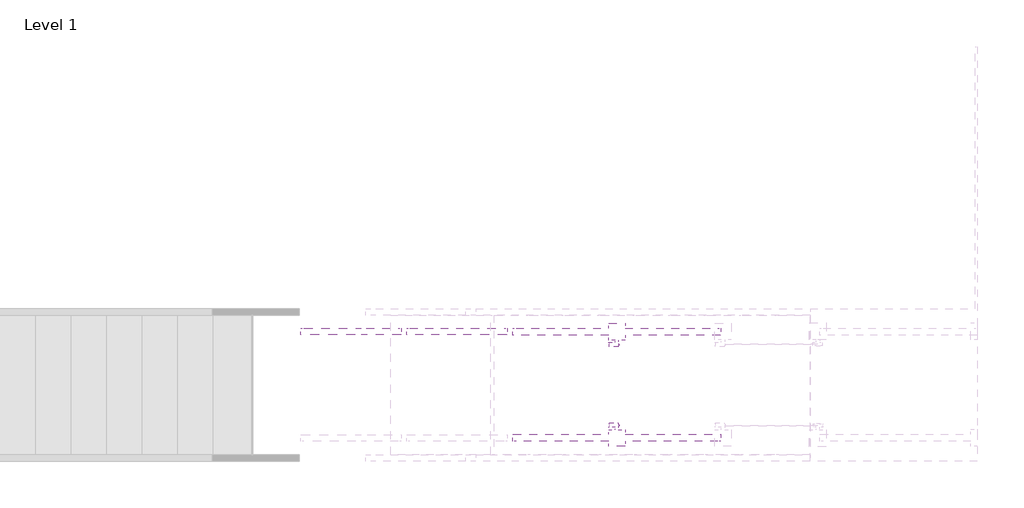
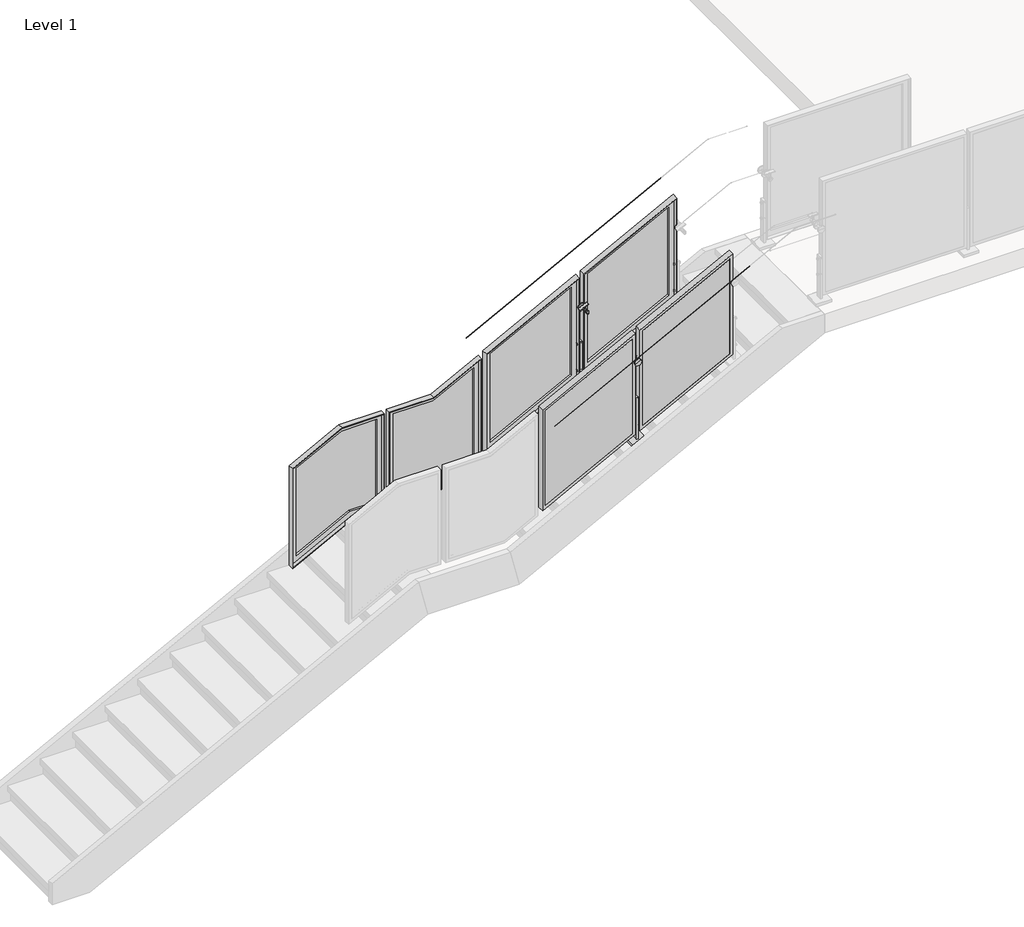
# One storey, part 14 of 37: 4 railings.
"""IFC4 building model written with IfcOpenShell, lengths in millimetres."""

from ifc_helpers import new_model, si_unit, point, frame, frame_2d, origin, place, context, project, spatial, polyline, circle_curve, ellipse_curve, trimmed, segment, composite_curve, outline, extrude, faceted_brep, transform, mapped, element, save
from ifc_brep_helpers import plane_surface, cylinder_surface, advanced_brep
from components import baluster_landing_panel_viva_frame_lower_standard_pp01_71fd184b, baluster_landing_panel_viva_frame_upper_standard_pp01_eb854fba

model = new_model("IFC4")

# Units and contexts
model_context = context("Model", 3, world=origin())
ifc_project = project(units=[si_unit("LENGTHUNIT", "METRE", prefix="MILLI")], contexts=[model_context])

# Site, building, storey
site = spatial("IfcSite", under=ifc_project)
building = spatial("IfcBuilding", under=site)
storey = spatial("IfcBuildingStorey", under=building, Name="Level 1", Elevation=0.0)

# Railings
placement = place(None, origin())
element("IfcRailing", 1, ObjectType="Metal-Panel-VIVA-FRAME-Slab-Top-Anchor-Stairs-Upper", at=placement, inside=storey, context=model_context, shape_type="SolidModel", body=[
    advanced_brep(
    [(-9833.8159088, -18664.9554387, 2893.6354769), (-9833.8159088, -18663.9554387, 2893.6354769), (-8157.4159088, -18664.9554387, 3764.4926197), (-8157.4159088, -18663.9554387, 3764.4926197)],
    [
        (0, 1, ellipse_curve(frame((-9833.8159088, -18664.4554387, 2893.6354769), z_axis=(-1.0, 0.0, 0.0), x_axis=(0.0, 0.0, -1.0)), 0.5634403, 0.5)),
        (1, 0, ellipse_curve(frame((-9833.8159088, -18664.4554387, 2893.6354769), z_axis=(-1.0, 0.0, 0.0), x_axis=(0.0, 0.0, -1.0)), 0.5634403, 0.5)),
        (2, 3, ellipse_curve(frame((-8157.4159088, -18664.4554387, 3764.4926197), z_axis=(1.0, 0.0, 0.0), x_axis=(0.0, 0.0, -1.0)), 0.5634403, 0.5)),
        (3, 2, ellipse_curve(frame((-8157.4159088, -18664.4554387, 3764.4926197), z_axis=(1.0, 0.0, 0.0), x_axis=(0.0, 0.0, -1.0)), 0.5634403, 0.5)),
        (0, 2),
        (3, 1),
    ],
    [
        plane_surface(frame((-9833.8159088, -18664.4554387, 2894.1989172), z_axis=(-1.0, 0.0, 0.0), x_axis=(0.0, 1.0, 0.0))),
        plane_surface(frame((-8157.4159088, -18664.4554387, 3765.0560601), z_axis=(1.0, 0.0, 0.0), x_axis=(0.0, 1.0, 0.0))),
        cylinder_surface(frame((-9833.5854139, -18664.4554387, 2893.7552145), z_axis=(-0.887405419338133, 0.0, -0.4609898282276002), x_axis=(0.0, 1.0, 0.0)), 0.5),
    ],
    [
        (0, [[1, 2]]),
        (1, [[3, 4]]),
        (2, [[-1, 5, -4, 6]]),
        (2, [[-2, -6, -3, -5]]),
    ],
),
    extrude(outline(polyline([(3321.6485005, -8951.1699519), (2460.8755486, -8951.1699519), (2850.1265024, -8201.8618657), (3710.8994544, -8201.8618657), (3321.6485005, -8951.1699519)])), frame((0.0, -18446.5786387, 0.0), z_axis=(0.0, 1.0, 0.0), x_axis=(0.0, 0.0, 1.0)), (0.0, 0.0, 1.0), 3.0),
    faceted_brep([(-8976.5699519, -18446.5786387, 3337.076464), (-8976.5699519, -18446.5786387, 2419.0579747), (-8176.4618657, -18446.5786387, 2834.6985389), (-8176.4618657, -18446.5786387, 3752.7170282), (-8951.1699519, -18446.5786387, 3321.6485005), (-8201.8618657, -18446.5786387, 3710.8994544), (-8201.8618657, -18446.5786387, 2850.1265024), (-8951.1699519, -18446.5786387, 2460.8755486), (-8201.8618657, -18443.5786387, 2850.1265024), (-8951.1699519, -18443.5786387, 2460.8755486), (-8201.8618657, -18443.5786387, 3710.8994544), (-8951.1699519, -18443.5786387, 3321.6485005), (-8970.5755519, -18392.7786387, 2428.9269221), (-8970.5755519, -18423.5888387, 2428.9269221), (-8182.4562657, -18423.5888387, 2838.3395383), (-8182.4562657, -18392.7786387, 2838.3395383), (-8182.4562657, -18423.5888387, 3742.8480808), (-8182.4562657, -18392.7786387, 3742.8480808), (-8970.5755519, -18392.7786387, 3333.4354646), (-8970.5755519, -18423.5888387, 3333.4354646), (-8176.4618657, -18392.7786387, 2834.6985389), (-8976.5699519, -18392.7786387, 2419.0579747), (-8976.5699519, -18392.7786387, 3337.076464), (-8176.4618657, -18392.7786387, 3752.7170282), (-8925.7699519, -18443.5786387, 3306.2205371), (-8227.2618657, -18443.5786387, 3669.0818805), (-8227.2618657, -18443.5786387, 2865.5544658), (-8925.7699519, -18443.5786387, 2502.6931224), (-8227.2618657, -18423.5888387, 2865.5544658), (-8227.2618657, -18423.5888387, 3669.0818805), (-8925.7699519, -18423.5888387, 3306.2205371), (-8925.7699519, -18423.5888387, 2502.6931224)], [[[0, 1, 2, 3], [4, 5, 6, 7]], [[7, 6, 8, 9]], [[6, 5, 10, 8]], [[5, 4, 11, 10]], [[4, 7, 9, 11]], [[12, 13, 14, 15]], [[15, 14, 16, 17]], [[13, 12, 18, 19]], [[20, 21, 22, 23], [12, 15, 17, 18]], [[21, 1, 0, 22]], [[21, 20, 2, 1]], [[2, 20, 23, 3]], [[22, 0, 3, 23]], [[11, 9, 8, 10], [24, 25, 26, 27]], [[14, 13, 19, 16], [28, 29, 30, 31]], [[19, 18, 17, 16]], [[25, 24, 30, 29]], [[26, 25, 29, 28]], [[27, 26, 28, 31]], [[24, 27, 31, 30]]]),
    extrude(outline(composite_curve([segment(polyline([(2.9997401, 0.0), (0.0, 0.0)]), True, "CONTINUOUS"), segment(trimmed(circle_curve(frame_2d((-19.0451471, 0.0)), 19.0451471), [point((0.0, 0.0))], [point((-23.6280664, 18.4855208))], True, "CARTESIAN"), True, "CONTINUOUS"), segment(polyline([(-23.6280664, 18.4855208), (-24.3499072, 21.3971159)]), True, "CONTINUOUS"), segment(trimmed(circle_curve(frame_2d((-19.0451471, 0.0)), 22.0448871), [point((-24.3499072, 21.3971159))], [point((2.9997401, 0.0))], False, "CARTESIAN"), True, "CONTINUOUS")], self_intersect=False)), frame((-9058.1036193, -18334.5772387, 3087.9792855), z_axis=(0.8874054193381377, 0.0, 0.46098982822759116), x_axis=(0.28405456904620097, -0.7876022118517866, -0.5468050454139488)), (0.0, 0.0, 1.0), 79.1184357),
    advanced_brep(
    [(-8983.2187312, -18319.5772387, 3029.6395217), (-8983.2187312, -18326.7209887, 3029.6395217), (-8983.2187312, -18312.4334887, 3029.6395217), (-9019.0779774, -18326.7209887, 3098.6685708), (-9019.0779774, -18319.5772387, 3098.6685708), (-9019.0779774, -18312.4334887, 3098.6685708)],
    [
        (0, 1),
        (1, 2, circle_curve(frame((-8983.2187312, -18319.5772387, 3029.6395217), z_axis=(0.46098982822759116, 0.0, -0.8874054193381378), x_axis=(0.0, 1.0, 0.0)), 7.14375)),
        (2, 0),
        (3, 4),
        (4, 5),
        (5, 3, circle_curve(frame((-9019.0779774, -18319.5772387, 3098.6685708), z_axis=(-0.46098982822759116, 0.0, 0.8874054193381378), x_axis=(0.0, 1.0, 0.0)), 7.14375)),
        (2, 1, circle_curve(frame((-8983.2187312, -18319.5772387, 3029.6395217), z_axis=(0.46098982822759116, 0.0, -0.8874054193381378), x_axis=(0.0, 1.0, 0.0)), 7.14375)),
        (3, 5, circle_curve(frame((-9019.0779774, -18319.5772387, 3098.6685708), z_axis=(-0.46098982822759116, 0.0, 0.8874054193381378), x_axis=(0.0, 1.0, 0.0)), 7.14375)),
        (1, 3),
        (5, 2),
    ],
    [
        plane_surface(frame((-8983.2187312, -18319.5772387, 3029.6395217), z_axis=(0.46098982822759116, 0.0, -0.8874054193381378), x_axis=(0.0, 1.0, 0.0))),
        plane_surface(frame((-9019.0779774, -18319.5772387, 3098.6685708), z_axis=(-0.46098982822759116, 0.0, 0.8874054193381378), x_axis=(0.0, 1.0, 0.0))),
        cylinder_surface(frame((-8866.2645313, -18319.5772387, 2804.502687), z_axis=(0.46098982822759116, 0.0, -0.8874054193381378), x_axis=(0.0, 1.0, 0.0)), 7.14375),
    ],
    [
        (0, [[1, 2, 3]]),
        (1, [[4, 5, 6]]),
        (0, [[-3, 7, -1]]),
        (1, [[-5, -4, 8]]),
        (2, [[9, -6, 10, -2]]),
        (2, [[-10, -8, -9, -7]]),
    ],
),
    advanced_brep(
    [(-9022.3822748, -18446.5772387, 3039.5994829), (-9001.2509332, -18446.5772387, 3050.5768032), (-8989.9808844, -18446.5772387, 3056.431374), (-8968.8495428, -18446.5772387, 3067.4086943), (-9022.3822748, -18454.5147387, 3039.5994829), (-8968.8495428, -18454.5147387, 3067.4086943), (-9022.3822748, -18387.8397387, 3039.5994829), (-9006.8859576, -18387.8397387, 3047.6495178), (-8984.34586, -18387.8397387, 3059.3586595), (-8968.8495428, -18387.8397387, 3067.4086943), (-9022.3822748, -18395.7772387, 3039.5994829), (-8968.8495428, -18395.7772387, 3067.4086943), (-8995.6159088, -18454.5147387, 3053.5040886), (-9006.8859576, -18308.4647387, 3047.6495178), (-8995.6159088, -18308.4647387, 3053.5040886), (-8984.34586, -18308.4647387, 3059.3586595), (-9001.2509332, -18395.7772387, 3050.5768032), (-8989.9808844, -18395.7772387, 3056.431374)],
    [
        (0, 1),
        (1, 2, circle_curve(frame((-8995.6159088, -18446.5772387, 3053.5040886), z_axis=(0.0, -1.0, 0.0), x_axis=(0.887405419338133, 0.0, 0.46098982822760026)), 6.35)),
        (2, 3),
        (3, 0, circle_curve(frame((-8995.6159088, -18446.5772387, 3053.5040886), z_axis=(0.0, 1.0, 0.0), x_axis=(0.887405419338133, 0.0, 0.46098982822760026)), 30.1625)),
        (4, 0),
        (3, 5),
        (5, 4, circle_curve(frame((-8995.6159088, -18454.5147387, 3053.5040886), z_axis=(0.0, 1.0, 0.0), x_axis=(0.887405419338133, 0.0, 0.46098982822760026)), 30.1625)),
        (6, 7),
        (7, 8, circle_curve(frame((-8995.6159088, -18387.8397387, 3053.5040886), z_axis=(0.0, -1.0, 0.0), x_axis=(0.887405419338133, 0.0, 0.46098982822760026)), 12.7)),
        (8, 9),
        (9, 6, circle_curve(frame((-8995.6159088, -18387.8397387, 3053.5040886), z_axis=(0.0, 1.0, 0.0), x_axis=(0.887405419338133, 0.0, 0.46098982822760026)), 30.1625)),
        (10, 6),
        (9, 11),
        (11, 10, circle_curve(frame((-8995.6159088, -18395.7772387, 3053.5040886), z_axis=(0.0, 1.0, 0.0), x_axis=(0.887405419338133, 0.0, 0.46098982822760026)), 30.1625)),
        (3, 0, circle_curve(frame((-8995.6159088, -18446.5772387, 3053.5040886), z_axis=(0.0, -1.0, 0.0), x_axis=(0.887405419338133, 0.0, 0.46098982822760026)), 30.1625)),
        (4, 5, circle_curve(frame((-8995.6159088, -18454.5147387, 3053.5040886), z_axis=(0.0, 1.0, 0.0), x_axis=(0.887405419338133, 0.0, 0.46098982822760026)), 30.1625)),
        (12, 4),
        (5, 12),
        (13, 14),
        (14, 15),
        (15, 13, circle_curve(frame((-8995.6159088, -18308.4647387, 3053.5040886), z_axis=(0.0, 1.0, 0.0), x_axis=(0.887405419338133, 0.0, 0.46098982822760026)), 12.7)),
        (13, 15, circle_curve(frame((-8995.6159088, -18308.4647387, 3053.5040886), z_axis=(0.0, 1.0, 0.0), x_axis=(0.887405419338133, 0.0, 0.46098982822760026)), 12.7)),
        (7, 13),
        (15, 8),
        (7, 8, circle_curve(frame((-8995.6159088, -18387.8397387, 3053.5040886), z_axis=(0.0, 1.0, 0.0), x_axis=(0.887405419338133, 0.0, 0.46098982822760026)), 12.7)),
        (6, 9, circle_curve(frame((-8995.6159088, -18387.8397387, 3053.5040886), z_axis=(0.0, 1.0, 0.0), x_axis=(0.887405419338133, 0.0, 0.46098982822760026)), 30.1625)),
        (10, 11, circle_curve(frame((-8995.6159088, -18395.7772387, 3053.5040886), z_axis=(0.0, 1.0, 0.0), x_axis=(0.887405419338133, 0.0, 0.46098982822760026)), 30.1625)),
        (16, 10),
        (11, 17),
        (17, 16, circle_curve(frame((-8995.6159088, -18395.7772387, 3053.5040886), z_axis=(0.0, 1.0, 0.0), x_axis=(0.887405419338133, 0.0, 0.46098982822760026)), 6.35)),
        (16, 17, circle_curve(frame((-8995.6159088, -18395.7772387, 3053.5040886), z_axis=(0.0, 1.0, 0.0), x_axis=(0.887405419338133, 0.0, 0.46098982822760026)), 6.35)),
        (1, 16),
        (17, 2),
        (1, 2, circle_curve(frame((-8995.6159088, -18446.5772387, 3053.5040886), z_axis=(0.0, 1.0, 0.0), x_axis=(0.887405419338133, 0.0, 0.46098982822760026)), 6.35)),
    ],
    [
        plane_surface(frame((-8995.6159088, -18446.5772387, 3053.5040886), z_axis=(0.0, 1.0, 0.0), x_axis=(0.887405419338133, 0.0, 0.46098982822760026))),
        cylinder_surface(frame((-8995.6159088, -19919.7772387, 3053.5040886), z_axis=(0.0, -1.0, 0.0), x_axis=(0.887405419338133, 0.0, 0.46098982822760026)), 30.1625),
        plane_surface(frame((-8995.6159088, -18387.8397387, 3053.5040886), z_axis=(0.0, 1.0, 0.0), x_axis=(0.887405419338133, 0.0, 0.46098982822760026))),
        plane_surface(frame((-8995.6159088, -18454.5147387, 3053.5040886), z_axis=(0.0, -1.0, 0.0), x_axis=(0.887405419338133, 0.0, 0.46098982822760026))),
        plane_surface(frame((-8995.6159088, -18308.4647387, 3053.5040886), z_axis=(0.0, 1.0, 0.0), x_axis=(0.887405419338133, 0.0, 0.46098982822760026))),
        cylinder_surface(frame((-8995.6159088, -19919.7772387, 3053.5040886), z_axis=(0.0, -1.0, 0.0), x_axis=(0.887405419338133, 0.0, 0.46098982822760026)), 12.7),
        plane_surface(frame((-8995.6159088, -18395.7772387, 3053.5040886), z_axis=(0.0, -1.0, 0.0), x_axis=(0.887405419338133, 0.0, 0.46098982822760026))),
        cylinder_surface(frame((-8995.6159088, -19919.7772387, 3053.5040886), z_axis=(0.0, -1.0, 0.0), x_axis=(0.887405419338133, 0.0, 0.46098982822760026)), 6.35),
    ],
    [
        (0, [[1, 2, 3, 4]]),
        (1, [[5, -4, 6, 7]]),
        (2, [[8, 9, 10, 11]]),
        (1, [[12, -11, 13, 14]]),
        (1, [[-6, 15, -5, 16]]),
        (3, [[17, -7, 18]]),
        (3, [[-18, -16, -17]]),
        (4, [[19, 20, 21]]),
        (4, [[-20, -19, 22]]),
        (5, [[23, -21, 24, -9]]),
        (5, [[-24, -22, -23, 25]]),
        (2, [[-10, -25, -8, 26]]),
        (1, [[-13, -26, -12, 27]]),
        (6, [[28, -14, 29, 30]]),
        (6, [[-29, -27, -28, 31]]),
        (7, [[32, -30, 33, -2]]),
        (7, [[-33, -31, -32, 34]]),
        (0, [[-3, -34, -1, -15]]),
    ],
),
    advanced_brep(
    [(-9021.8033088, -18421.1772387, 2452.4353143), (-9021.8033088, -18421.1772387, 2471.5361143), (-9021.8033088, -18421.1772387, 2461.9857143), (-9017.0281088, -18421.1772387, 2452.4353143), (-9017.0281088, -18421.1772387, 2471.5361143), (-9017.0281088, -18421.1772387, 2457.2105143), (-9017.0281088, -18421.1772387, 2466.7609143), (-8974.2037088, -18421.1772387, 2457.2105143), (-8974.2037088, -18421.1772387, 2466.7609143), (-8974.2037088, -18421.1772387, 2452.4353143), (-8974.2037088, -18421.1772387, 2471.5361143), (-8969.4285088, -18421.1772387, 2452.4353143), (-8969.4285088, -18421.1772387, 2471.5361143), (-8969.4285088, -18421.1772387, 2461.9857143)],
    [
        (0, 1, circle_curve(frame((-9021.8033088, -18421.1772387, 2461.9857143), z_axis=(-1.0, 0.0, 0.0), x_axis=(0.0, 0.0, 1.0)), 9.5504)),
        (1, 2),
        (2, 0),
        (1, 0, circle_curve(frame((-9021.8033088, -18421.1772387, 2461.9857143), z_axis=(-1.0, 0.0, 0.0), x_axis=(0.0, 0.0, 1.0)), 9.5504)),
        (3, 4, circle_curve(frame((-9017.0281088, -18421.1772387, 2461.9857143), z_axis=(-1.0, 0.0, 0.0), x_axis=(0.0, 0.0, 1.0)), 9.5504)),
        (4, 1),
        (0, 3),
        (4, 3, circle_curve(frame((-9017.0281088, -18421.1772387, 2461.9857143), z_axis=(-1.0, 0.0, 0.0), x_axis=(0.0, 0.0, 1.0)), 9.5504)),
        (5, 6, circle_curve(frame((-9017.0281088, -18421.1772387, 2461.9857143), z_axis=(-1.0, 0.0, 0.0), x_axis=(0.0, 0.0, 1.0)), 4.7752)),
        (6, 4),
        (3, 5),
        (6, 5, circle_curve(frame((-9017.0281088, -18421.1772387, 2461.9857143), z_axis=(-1.0, 0.0, 0.0), x_axis=(0.0, 0.0, 1.0)), 4.7752)),
        (7, 8, circle_curve(frame((-8974.2037088, -18421.1772387, 2461.9857143), z_axis=(-1.0, 0.0, 0.0), x_axis=(0.0, 0.0, 1.0)), 4.7752)),
        (8, 6),
        (5, 7),
        (8, 7, circle_curve(frame((-8974.2037088, -18421.1772387, 2461.9857143), z_axis=(-1.0, 0.0, 0.0), x_axis=(0.0, 0.0, 1.0)), 4.7752)),
        (9, 10, circle_curve(frame((-8974.2037088, -18421.1772387, 2461.9857143), z_axis=(-1.0, 0.0, 0.0), x_axis=(0.0, 0.0, 1.0)), 9.5504)),
        (10, 8),
        (7, 9),
        (10, 9, circle_curve(frame((-8974.2037088, -18421.1772387, 2461.9857143), z_axis=(-1.0, 0.0, 0.0), x_axis=(0.0, 0.0, 1.0)), 9.5504)),
        (11, 12, circle_curve(frame((-8969.4285088, -18421.1772387, 2461.9857143), z_axis=(-1.0, 0.0, 0.0), x_axis=(0.0, 0.0, 1.0)), 9.5504)),
        (12, 10),
        (9, 11),
        (12, 11, circle_curve(frame((-8969.4285088, -18421.1772387, 2461.9857143), z_axis=(-1.0, 0.0, 0.0), x_axis=(0.0, 0.0, 1.0)), 9.5504)),
        (13, 12),
        (11, 13),
    ],
    [
        plane_surface(frame((-9021.8033088, -18421.1772387, 2461.9857143), z_axis=(-1.0, 0.0, 0.0), x_axis=(0.0, 0.0, 1.0))),
        cylinder_surface(frame((-12413.3836659, -18421.1772387, 2461.9857143), z_axis=(1.0, 0.0, 0.0), x_axis=(0.0, 0.0, 1.0)), 9.5504),
        plane_surface(frame((-9017.0281088, -18421.1772387, 2461.9857143), z_axis=(1.0, 0.0, 0.0), x_axis=(0.0, 0.0, 1.0))),
        cylinder_surface(frame((-12413.3836659, -18421.1772387, 2461.9857143), z_axis=(1.0, 0.0, 0.0), x_axis=(0.0, 0.0, 1.0)), 4.7752),
        plane_surface(frame((-8974.2037088, -18421.1772387, 2461.9857143), z_axis=(-1.0, 0.0, 0.0), x_axis=(0.0, 0.0, 1.0))),
        plane_surface(frame((-8969.4285088, -18421.1772387, 2461.9857143), z_axis=(1.0, 0.0, 0.0), x_axis=(0.0, 0.0, 1.0))),
    ],
    [
        (0, [[1, 2, 3]]),
        (0, [[4, -3, -2]]),
        (1, [[5, 6, -1, 7]]),
        (1, [[8, -7, -4, -6]]),
        (2, [[9, 10, -5, 11]]),
        (2, [[12, -11, -8, -10]]),
        (3, [[13, 14, -9, 15]]),
        (3, [[16, -15, -12, -14]]),
        (4, [[17, 18, -13, 19]]),
        (4, [[20, -19, -16, -18]]),
        (1, [[21, 22, -17, 23]]),
        (1, [[24, -23, -20, -22]]),
        (5, [[25, -21, 26]]),
        (5, [[-26, -24, -25]]),
    ],
),
    advanced_brep(
    [(-9021.8033088, -18421.1772387, 2693.7353143), (-9021.8033088, -18421.1772387, 2712.8361143), (-9021.8033088, -18421.1772387, 2703.2857143), (-9017.0281088, -18421.1772387, 2693.7353143), (-9017.0281088, -18421.1772387, 2712.8361143), (-9017.0281088, -18421.1772387, 2698.5105143), (-9017.0281088, -18421.1772387, 2708.0609143), (-8974.2037088, -18421.1772387, 2698.5105143), (-8974.2037088, -18421.1772387, 2708.0609143), (-8974.2037088, -18421.1772387, 2693.7353143), (-8974.2037088, -18421.1772387, 2712.8361143), (-8969.4285088, -18421.1772387, 2693.7353143), (-8969.4285088, -18421.1772387, 2712.8361143), (-8969.4285088, -18421.1772387, 2703.2857143)],
    [
        (0, 1, circle_curve(frame((-9021.8033088, -18421.1772387, 2703.2857143), z_axis=(-1.0, 0.0, 0.0), x_axis=(0.0, 0.0, 1.0)), 9.5504)),
        (1, 2),
        (2, 0),
        (1, 0, circle_curve(frame((-9021.8033088, -18421.1772387, 2703.2857143), z_axis=(-1.0, 0.0, 0.0), x_axis=(0.0, 0.0, 1.0)), 9.5504)),
        (3, 4, circle_curve(frame((-9017.0281088, -18421.1772387, 2703.2857143), z_axis=(-1.0, 0.0, 0.0), x_axis=(0.0, 0.0, 1.0)), 9.5504)),
        (4, 1),
        (0, 3),
        (4, 3, circle_curve(frame((-9017.0281088, -18421.1772387, 2703.2857143), z_axis=(-1.0, 0.0, 0.0), x_axis=(0.0, 0.0, 1.0)), 9.5504)),
        (5, 6, circle_curve(frame((-9017.0281088, -18421.1772387, 2703.2857143), z_axis=(-1.0, 0.0, 0.0), x_axis=(0.0, 0.0, 1.0)), 4.7752)),
        (6, 4),
        (3, 5),
        (6, 5, circle_curve(frame((-9017.0281088, -18421.1772387, 2703.2857143), z_axis=(-1.0, 0.0, 0.0), x_axis=(0.0, 0.0, 1.0)), 4.7752)),
        (7, 8, circle_curve(frame((-8974.2037088, -18421.1772387, 2703.2857143), z_axis=(-1.0, 0.0, 0.0), x_axis=(0.0, 0.0, 1.0)), 4.7752)),
        (8, 6),
        (5, 7),
        (8, 7, circle_curve(frame((-8974.2037088, -18421.1772387, 2703.2857143), z_axis=(-1.0, 0.0, 0.0), x_axis=(0.0, 0.0, 1.0)), 4.7752)),
        (9, 10, circle_curve(frame((-8974.2037088, -18421.1772387, 2703.2857143), z_axis=(-1.0, 0.0, 0.0), x_axis=(0.0, 0.0, 1.0)), 9.5504)),
        (10, 8),
        (7, 9),
        (10, 9, circle_curve(frame((-8974.2037088, -18421.1772387, 2703.2857143), z_axis=(-1.0, 0.0, 0.0), x_axis=(0.0, 0.0, 1.0)), 9.5504)),
        (11, 12, circle_curve(frame((-8969.4285088, -18421.1772387, 2703.2857143), z_axis=(-1.0, 0.0, 0.0), x_axis=(0.0, 0.0, 1.0)), 9.5504)),
        (12, 10),
        (9, 11),
        (12, 11, circle_curve(frame((-8969.4285088, -18421.1772387, 2703.2857143), z_axis=(-1.0, 0.0, 0.0), x_axis=(0.0, 0.0, 1.0)), 9.5504)),
        (13, 12),
        (11, 13),
    ],
    [
        plane_surface(frame((-9021.8033088, -18421.1772387, 2703.2857143), z_axis=(-1.0, 0.0, 0.0), x_axis=(0.0, 0.0, 1.0))),
        cylinder_surface(frame((-12413.3836659, -18421.1772387, 2703.2857143), z_axis=(1.0, 0.0, 0.0), x_axis=(0.0, 0.0, 1.0)), 9.5504),
        plane_surface(frame((-9017.0281088, -18421.1772387, 2703.2857143), z_axis=(1.0, 0.0, 0.0), x_axis=(0.0, 0.0, 1.0))),
        cylinder_surface(frame((-12413.3836659, -18421.1772387, 2703.2857143), z_axis=(1.0, 0.0, 0.0), x_axis=(0.0, 0.0, 1.0)), 4.7752),
        plane_surface(frame((-8974.2037088, -18421.1772387, 2703.2857143), z_axis=(-1.0, 0.0, 0.0), x_axis=(0.0, 0.0, 1.0))),
        plane_surface(frame((-8969.4285088, -18421.1772387, 2703.2857143), z_axis=(1.0, 0.0, 0.0), x_axis=(0.0, 0.0, 1.0))),
    ],
    [
        (0, [[1, 2, 3]]),
        (0, [[4, -3, -2]]),
        (1, [[5, 6, -1, 7]]),
        (1, [[8, -7, -4, -6]]),
        (2, [[9, 10, -5, 11]]),
        (2, [[12, -11, -8, -10]]),
        (3, [[13, 14, -9, 15]]),
        (3, [[16, -15, -12, -14]]),
        (4, [[17, 18, -13, 19]]),
        (4, [[20, -19, -16, -18]]),
        (1, [[21, 22, -17, 23]]),
        (1, [[24, -23, -20, -22]]),
        (5, [[25, -21, 26]]),
        (5, [[-26, -24, -25]]),
    ],
),
    extrude(outline(polyline([(-9061.5035088, -18355.2896387), (-8929.7283088, -18355.2896387), (-8929.7283088, -18487.0648387), (-9061.5035088, -18487.0648387), (-9061.5035088, -18355.2896387)])), frame((0.0, 0.0, 2322.2857143), z_axis=(0.0, 0.0, 1.0), x_axis=(1.0, 0.0, 0.0)), (0.0, 0.0, 1.0), 25.4),
    extrude(outline(polyline([(-9003.5555004, -18398.9522387), (-8987.6763171, -18398.9522387), (-8987.6763171, -18443.4022387), (-9003.5555004, -18443.4022387), (-9003.5555004, -18398.9522387)])), frame((0.0, 0.0, 2322.2857143), z_axis=(0.0, 0.0, 1.0), x_axis=(1.0, 0.0, 0.0)), (0.0, 0.0, 1.0), 406.4),
    extrude(outline(polyline([(2886.2199291, -9789.3699519), (2025.4469771, -9789.3699519), (2414.697931, -9040.0618657), (3275.4708829, -9040.0618657), (2886.2199291, -9789.3699519)])), frame((0.0, -18446.5786387, 0.0), z_axis=(0.0, 1.0, 0.0), x_axis=(0.0, 0.0, 1.0)), (0.0, 0.0, 1.0), 3.0),
    faceted_brep([(-9814.7699519, -18446.5786387, 2901.6478925), (-9814.7699519, -18446.5786387, 1983.6294033), (-9014.6618657, -18446.5786387, 2399.2699675), (-9014.6618657, -18446.5786387, 3317.2884568), (-9789.3699519, -18446.5786387, 2886.2199291), (-9040.0618657, -18446.5786387, 3275.4708829), (-9040.0618657, -18446.5786387, 2414.697931), (-9789.3699519, -18446.5786387, 2025.4469771), (-9040.0618657, -18443.5786387, 2414.697931), (-9789.3699519, -18443.5786387, 2025.4469771), (-9040.0618657, -18443.5786387, 3275.4708829), (-9789.3699519, -18443.5786387, 2886.2199291), (-9808.7755519, -18392.7786387, 1993.4983507), (-9808.7755519, -18423.5888387, 1993.4983507), (-9020.6562657, -18423.5888387, 2402.9109669), (-9020.6562657, -18392.7786387, 2402.9109669), (-9020.6562657, -18423.5888387, 3307.4195093), (-9020.6562657, -18392.7786387, 3307.4195093), (-9808.7755519, -18392.7786387, 2898.0068932), (-9808.7755519, -18423.5888387, 2898.0068932), (-9014.6618657, -18392.7786387, 2399.2699675), (-9814.7699519, -18392.7786387, 1983.6294033), (-9814.7699519, -18392.7786387, 2901.6478925), (-9014.6618657, -18392.7786387, 3317.2884568), (-9763.9699519, -18443.5786387, 2870.7919657), (-9065.4618657, -18443.5786387, 3233.6533091), (-9065.4618657, -18443.5786387, 2430.1258944), (-9763.9699519, -18443.5786387, 2067.264551), (-9065.4618657, -18423.5888387, 2430.1258944), (-9065.4618657, -18423.5888387, 3233.6533091), (-9763.9699519, -18423.5888387, 2870.7919657), (-9763.9699519, -18423.5888387, 2067.264551)], [[[0, 1, 2, 3], [4, 5, 6, 7]], [[7, 6, 8, 9]], [[6, 5, 10, 8]], [[5, 4, 11, 10]], [[4, 7, 9, 11]], [[12, 13, 14, 15]], [[15, 14, 16, 17]], [[13, 12, 18, 19]], [[20, 21, 22, 23], [12, 15, 17, 18]], [[21, 1, 0, 22]], [[21, 20, 2, 1]], [[2, 20, 23, 3]], [[22, 0, 3, 23]], [[11, 9, 8, 10], [24, 25, 26, 27]], [[14, 13, 19, 16], [28, 29, 30, 31]], [[19, 18, 17, 16]], [[25, 24, 30, 29]], [[26, 25, 29, 28]], [[27, 26, 28, 31]], [[24, 27, 31, 30]]]),
])
element("IfcRailing", 2, ObjectType="Metal-Panel-VIVA-FRAME-Slab-Top-Anchor-Stairs-Upper", at=placement, inside=storey, context=model_context, shape_type="SolidModel", body=[
    advanced_brep(
    [(-9833.8159088, -17340.7578387, 2893.6354769), (-9833.8159088, -17339.7578387, 2893.6354769), (-8157.4159088, -17340.7578387, 3764.4926197), (-8157.4159088, -17339.7578387, 3764.4926197)],
    [
        (0, 1, ellipse_curve(frame((-9833.8159088, -17340.2578387, 2893.6354769), z_axis=(-1.0, 0.0, 0.0), x_axis=(0.0, 0.0, -0.9999999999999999)), 0.5634403, 0.5)),
        (1, 0, ellipse_curve(frame((-9833.8159088, -17340.2578387, 2893.6354769), z_axis=(-1.0, 0.0, 0.0), x_axis=(0.0, 0.0, -0.9999999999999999)), 0.5634403, 0.5)),
        (2, 3, ellipse_curve(frame((-8157.4159088, -17340.2578387, 3764.4926197), z_axis=(1.0, 0.0, 0.0), x_axis=(0.0, 0.0, -0.9999999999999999)), 0.5634403, 0.5)),
        (3, 2, ellipse_curve(frame((-8157.4159088, -17340.2578387, 3764.4926197), z_axis=(1.0, 0.0, 0.0), x_axis=(0.0, 0.0, -0.9999999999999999)), 0.5634403, 0.5)),
        (0, 2),
        (3, 1),
    ],
    [
        plane_surface(frame((-9833.8159088, -17340.2578387, 2894.1989172), z_axis=(-1.0, 0.0, 0.0), x_axis=(0.0, 1.0, 0.0))),
        plane_surface(frame((-8157.4159088, -17340.2578387, 3765.0560601), z_axis=(1.0, 0.0, 0.0), x_axis=(0.0, 1.0, 0.0))),
        cylinder_surface(frame((-9833.5854139, -17340.2578387, 2893.7552145), z_axis=(-0.8874054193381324, 0.0, -0.4609898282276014), x_axis=(0.0, 1.0, 0.0)), 0.5),
    ],
    [
        (0, [[1, 2]]),
        (1, [[3, 4]]),
        (2, [[-1, 5, -4, 6]]),
        (2, [[-2, -6, -3, -5]]),
    ],
),
    extrude(outline(polyline([(2460.8755486, -8951.1699519), (2850.1265024, -8201.8618657), (3710.8994544, -8201.8618657), (3321.6485005, -8951.1699519), (2460.8755486, -8951.1699519)])), frame((0.0, -17561.1346387, 0.0), z_axis=(0.0, 1.0, 0.0), x_axis=(0.0, 0.0, 1.0)), (0.0, 0.0, 1.0), 3.0),
    faceted_brep([(-8976.5699519, -17558.1346387, 3337.076464), (-8176.4618657, -17558.1346387, 3752.7170282), (-8176.4618657, -17558.1346387, 2834.6985389), (-8976.5699519, -17558.1346387, 2419.0579747), (-8951.1699519, -17558.1346387, 3321.6485005), (-8951.1699519, -17558.1346387, 2460.8755486), (-8201.8618657, -17558.1346387, 2850.1265024), (-8201.8618657, -17558.1346387, 3710.8994544), (-8951.1699519, -17561.1346387, 2460.8755486), (-8201.8618657, -17561.1346387, 2850.1265024), (-8201.8618657, -17561.1346387, 3710.8994544), (-8951.1699519, -17561.1346387, 3321.6485005), (-8970.5755519, -17611.9346387, 2428.9269221), (-8182.4562657, -17611.9346387, 2838.3395383), (-8182.4562657, -17581.1244387, 2838.3395383), (-8970.5755519, -17581.1244387, 2428.9269221), (-8182.4562657, -17611.9346387, 3742.8480808), (-8182.4562657, -17581.1244387, 3742.8480808), (-8970.5755519, -17581.1244387, 3333.4354646), (-8970.5755519, -17611.9346387, 3333.4354646), (-8176.4618657, -17611.9346387, 2834.6985389), (-8176.4618657, -17611.9346387, 3752.7170282), (-8976.5699519, -17611.9346387, 3337.076464), (-8976.5699519, -17611.9346387, 2419.0579747), (-8925.7699519, -17561.1346387, 3306.2205371), (-8925.7699519, -17561.1346387, 2502.6931224), (-8227.2618657, -17561.1346387, 2865.5544658), (-8227.2618657, -17561.1346387, 3669.0818805), (-8227.2618657, -17581.1244387, 2865.5544658), (-8925.7699519, -17581.1244387, 2502.6931224), (-8925.7699519, -17581.1244387, 3306.2205371), (-8227.2618657, -17581.1244387, 3669.0818805)], [[[0, 1, 2, 3], [4, 5, 6, 7]], [[5, 8, 9, 6]], [[6, 9, 10, 7]], [[7, 10, 11, 4]], [[4, 11, 8, 5]], [[12, 13, 14, 15]], [[13, 16, 17, 14]], [[15, 18, 19, 12]], [[20, 21, 22, 23], [12, 19, 16, 13]], [[23, 22, 0, 3]], [[23, 3, 2, 20]], [[2, 1, 21, 20]], [[22, 21, 1, 0]], [[11, 10, 9, 8], [24, 25, 26, 27]], [[14, 17, 18, 15], [28, 29, 30, 31]], [[18, 17, 16, 19]], [[27, 31, 30, 24]], [[26, 28, 31, 27]], [[25, 29, 28, 26]], [[24, 30, 29, 25]]]),
    extrude(outline(composite_curve([segment(trimmed(circle_curve(frame_2d((-19.0451471, 0.0)), 22.0448871), [point((2.99974, -1e-07))], [point((-24.3499073, -21.397116))], False, "CARTESIAN"), True, "CONTINUOUS"), segment(polyline([(-24.3499073, -21.397116), (-23.6280664, -18.4855208)]), True, "CONTINUOUS"), segment(trimmed(circle_curve(frame_2d((-19.0451471, 0.0)), 19.0451471), [point((-23.6280664, -18.4855208))], [point((0.0, 0.0))], True, "CARTESIAN"), True, "CONTINUOUS"), segment(polyline([(0.0, 0.0), (2.99974, -1e-07)]), True, "CONTINUOUS")], self_intersect=False)), frame((-9058.1036193, -17670.1360387, 3087.9792855), z_axis=(0.8874054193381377, 0.0, 0.46098982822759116), x_axis=(0.2840545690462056, 0.7876022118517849, -0.5468050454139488)), (0.0, 0.0, 1.0), 79.1184357),
    advanced_brep(
    [(-8983.2187312, -17685.1360387, 3029.6395217), (-8983.2187312, -17692.2797887, 3029.6395217), (-8983.2187312, -17677.9922887, 3029.6395217), (-9019.0779774, -17677.9922887, 3098.6685708), (-9019.0779774, -17692.2797887, 3098.6685708), (-9019.0779774, -17685.1360387, 3098.6685708)],
    [
        (0, 1),
        (1, 2, circle_curve(frame((-8983.2187312, -17685.1360387, 3029.6395217), z_axis=(0.46098982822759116, 0.0, -0.8874054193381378), x_axis=(0.0, -1.0, 0.0)), 7.14375)),
        (2, 0),
        (3, 4, circle_curve(frame((-9019.0779774, -17685.1360387, 3098.6685708), z_axis=(-0.46098982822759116, 0.0, 0.8874054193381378), x_axis=(0.0, -1.0, 0.0)), 7.14375)),
        (4, 5),
        (5, 3),
        (2, 1, circle_curve(frame((-8983.2187312, -17685.1360387, 3029.6395217), z_axis=(0.46098982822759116, 0.0, -0.8874054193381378), x_axis=(0.0, -1.0, 0.0)), 7.14375)),
        (4, 3, circle_curve(frame((-9019.0779774, -17685.1360387, 3098.6685708), z_axis=(-0.46098982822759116, 0.0, 0.8874054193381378), x_axis=(0.0, -1.0, 0.0)), 7.14375)),
        (1, 4),
        (3, 2),
    ],
    [
        plane_surface(frame((-8983.2187312, -17685.1360387, 3029.6395217), z_axis=(0.46098982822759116, 0.0, -0.8874054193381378), x_axis=(0.0, -1.0, 0.0))),
        plane_surface(frame((-9019.0779774, -17685.1360387, 3098.6685708), z_axis=(-0.46098982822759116, 0.0, 0.8874054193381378), x_axis=(0.0, -1.0, 0.0))),
        cylinder_surface(frame((-8866.2645313, -17685.1360387, 2804.502687), z_axis=(0.46098982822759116, 0.0, -0.8874054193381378), x_axis=(0.0, -1.0, 0.0)), 7.14375),
    ],
    [
        (0, [[1, 2, 3]]),
        (1, [[4, 5, 6]]),
        (0, [[-3, 7, -1]]),
        (1, [[8, -6, -5]]),
        (2, [[-2, 9, -4, 10]]),
        (2, [[-7, -10, -8, -9]]),
    ],
),
    advanced_brep(
    [(-9022.3822748, -17558.1360387, 3039.5994829), (-8968.8495428, -17558.1360387, 3067.4086943), (-8989.9808844, -17558.1360387, 3056.431374), (-9001.2509332, -17558.1360387, 3050.5768032), (-9022.3822748, -17550.1985387, 3039.5994829), (-8968.8495428, -17550.1985387, 3067.4086943), (-9022.3822748, -17616.8735387, 3039.5994829), (-8968.8495428, -17616.8735387, 3067.4086943), (-8984.34586, -17616.8735387, 3059.3586595), (-9006.8859576, -17616.8735387, 3047.6495178), (-9022.3822748, -17608.9360387, 3039.5994829), (-8968.8495428, -17608.9360387, 3067.4086943), (-8995.6159088, -17550.1985387, 3053.5040886), (-9006.8859576, -17696.2485387, 3047.6495178), (-8984.34586, -17696.2485387, 3059.3586595), (-8995.6159088, -17696.2485387, 3053.5040886), (-9001.2509332, -17608.9360387, 3050.5768032), (-8989.9808844, -17608.9360387, 3056.431374)],
    [
        (0, 1, circle_curve(frame((-8995.6159088, -17558.1360387, 3053.5040886), z_axis=(0.0, -1.0, 0.0), x_axis=(0.887405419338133, 0.0, 0.46098982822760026)), 30.1625)),
        (1, 2),
        (2, 3, circle_curve(frame((-8995.6159088, -17558.1360387, 3053.5040886), z_axis=(0.0, 1.0, 0.0), x_axis=(0.887405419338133, 0.0, 0.46098982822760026)), 6.35)),
        (3, 0),
        (4, 5, circle_curve(frame((-8995.6159088, -17550.1985387, 3053.5040886), z_axis=(0.0, -1.0, 0.0), x_axis=(0.887405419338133, 0.0, 0.46098982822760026)), 30.1625)),
        (5, 1),
        (0, 4),
        (6, 7, circle_curve(frame((-8995.6159088, -17616.8735387, 3053.5040886), z_axis=(0.0, -1.0, 0.0), x_axis=(0.887405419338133, 0.0, 0.46098982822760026)), 30.1625)),
        (7, 8),
        (8, 9, circle_curve(frame((-8995.6159088, -17616.8735387, 3053.5040886), z_axis=(0.0, 1.0, 0.0), x_axis=(0.887405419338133, 0.0, 0.46098982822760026)), 12.7)),
        (9, 6),
        (10, 11, circle_curve(frame((-8995.6159088, -17608.9360387, 3053.5040886), z_axis=(0.0, -1.0, 0.0), x_axis=(0.887405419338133, 0.0, 0.46098982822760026)), 30.1625)),
        (11, 7),
        (6, 10),
        (5, 4, circle_curve(frame((-8995.6159088, -17550.1985387, 3053.5040886), z_axis=(0.0, -1.0, 0.0), x_axis=(0.887405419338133, 0.0, 0.46098982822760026)), 30.1625)),
        (0, 1, circle_curve(frame((-8995.6159088, -17558.1360387, 3053.5040886), z_axis=(0.0, 1.0, 0.0), x_axis=(0.887405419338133, 0.0, 0.46098982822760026)), 30.1625)),
        (12, 5),
        (4, 12),
        (13, 14, circle_curve(frame((-8995.6159088, -17696.2485387, 3053.5040886), z_axis=(0.0, -1.0, 0.0), x_axis=(0.887405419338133, 0.0, 0.46098982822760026)), 12.7)),
        (14, 15),
        (15, 13),
        (14, 13, circle_curve(frame((-8995.6159088, -17696.2485387, 3053.5040886), z_axis=(0.0, -1.0, 0.0), x_axis=(0.887405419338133, 0.0, 0.46098982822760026)), 12.7)),
        (8, 14),
        (13, 9),
        (8, 9, circle_curve(frame((-8995.6159088, -17616.8735387, 3053.5040886), z_axis=(0.0, -1.0, 0.0), x_axis=(0.887405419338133, 0.0, 0.46098982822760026)), 12.7)),
        (7, 6, circle_curve(frame((-8995.6159088, -17616.8735387, 3053.5040886), z_axis=(0.0, -1.0, 0.0), x_axis=(0.887405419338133, 0.0, 0.46098982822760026)), 30.1625)),
        (11, 10, circle_curve(frame((-8995.6159088, -17608.9360387, 3053.5040886), z_axis=(0.0, -1.0, 0.0), x_axis=(0.887405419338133, 0.0, 0.46098982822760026)), 30.1625)),
        (16, 17, circle_curve(frame((-8995.6159088, -17608.9360387, 3053.5040886), z_axis=(0.0, -1.0, 0.0), x_axis=(0.887405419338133, 0.0, 0.46098982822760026)), 6.35)),
        (17, 11),
        (10, 16),
        (17, 16, circle_curve(frame((-8995.6159088, -17608.9360387, 3053.5040886), z_axis=(0.0, -1.0, 0.0), x_axis=(0.887405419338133, 0.0, 0.46098982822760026)), 6.35)),
        (2, 17),
        (16, 3),
        (2, 3, circle_curve(frame((-8995.6159088, -17558.1360387, 3053.5040886), z_axis=(0.0, -1.0, 0.0), x_axis=(0.887405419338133, 0.0, 0.46098982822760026)), 6.35)),
    ],
    [
        plane_surface(frame((-8995.6159088, -17558.1360387, 3053.5040886), z_axis=(0.0, -1.0, 0.0), x_axis=(0.887405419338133, 0.0, 0.46098982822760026))),
        cylinder_surface(frame((-8995.6159088, -16084.9360387, 3053.5040886), z_axis=(0.0, 1.0, 0.0), x_axis=(0.887405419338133, 0.0, 0.46098982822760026)), 30.1625),
        plane_surface(frame((-8995.6159088, -17616.8735387, 3053.5040886), z_axis=(0.0, -1.0, 0.0), x_axis=(0.887405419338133, 0.0, 0.46098982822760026))),
        plane_surface(frame((-8995.6159088, -17550.1985387, 3053.5040886), z_axis=(0.0, 1.0, 0.0), x_axis=(0.887405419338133, 0.0, 0.46098982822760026))),
        plane_surface(frame((-8995.6159088, -17696.2485387, 3053.5040886), z_axis=(0.0, -1.0, 0.0), x_axis=(0.887405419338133, 0.0, 0.46098982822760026))),
        cylinder_surface(frame((-8995.6159088, -16084.9360387, 3053.5040886), z_axis=(0.0, 1.0, 0.0), x_axis=(0.887405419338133, 0.0, 0.46098982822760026)), 12.7),
        plane_surface(frame((-8995.6159088, -17608.9360387, 3053.5040886), z_axis=(0.0, 1.0, 0.0), x_axis=(0.887405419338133, 0.0, 0.46098982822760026))),
        cylinder_surface(frame((-8995.6159088, -16084.9360387, 3053.5040886), z_axis=(0.0, 1.0, 0.0), x_axis=(0.887405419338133, 0.0, 0.46098982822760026)), 6.35),
    ],
    [
        (0, [[1, 2, 3, 4]]),
        (1, [[5, 6, -1, 7]]),
        (2, [[8, 9, 10, 11]]),
        (1, [[12, 13, -8, 14]]),
        (1, [[15, -7, 16, -6]]),
        (3, [[17, -5, 18]]),
        (3, [[-18, -15, -17]]),
        (4, [[19, 20, 21]]),
        (4, [[22, -21, -20]]),
        (5, [[-10, 23, -19, 24]]),
        (5, [[25, -24, -22, -23]]),
        (2, [[26, -11, -25, -9]]),
        (1, [[27, -14, -26, -13]]),
        (6, [[28, 29, -12, 30]]),
        (6, [[31, -30, -27, -29]]),
        (7, [[-3, 32, -28, 33]]),
        (7, [[34, -33, -31, -32]]),
        (0, [[-16, -4, -34, -2]]),
    ],
),
    advanced_brep(
    [(-9021.8033088, -17583.5360387, 2452.4353143), (-9021.8033088, -17583.5360387, 2461.9857143), (-9021.8033088, -17583.5360387, 2471.5361143), (-9017.0281088, -17583.5360387, 2452.4353143), (-9017.0281088, -17583.5360387, 2471.5361143), (-9017.0281088, -17583.5360387, 2457.2105143), (-9017.0281088, -17583.5360387, 2466.7609143), (-8974.2037088, -17583.5360387, 2457.2105143), (-8974.2037088, -17583.5360387, 2466.7609143), (-8974.2037088, -17583.5360387, 2452.4353143), (-8974.2037088, -17583.5360387, 2471.5361143), (-8969.4285088, -17583.5360387, 2452.4353143), (-8969.4285088, -17583.5360387, 2471.5361143), (-8969.4285088, -17583.5360387, 2461.9857143)],
    [
        (0, 1),
        (1, 2),
        (2, 0, circle_curve(frame((-9021.8033088, -17583.5360387, 2461.9857143), z_axis=(-1.0, 0.0, 0.0), x_axis=(0.0, 0.0, 1.0)), 9.5504)),
        (0, 2, circle_curve(frame((-9021.8033088, -17583.5360387, 2461.9857143), z_axis=(-1.0, 0.0, 0.0), x_axis=(0.0, 0.0, 1.0)), 9.5504)),
        (3, 0),
        (2, 4),
        (4, 3, circle_curve(frame((-9017.0281088, -17583.5360387, 2461.9857143), z_axis=(-1.0, 0.0, 0.0), x_axis=(0.0, 0.0, 1.0)), 9.5504)),
        (3, 4, circle_curve(frame((-9017.0281088, -17583.5360387, 2461.9857143), z_axis=(-1.0, 0.0, 0.0), x_axis=(0.0, 0.0, 1.0)), 9.5504)),
        (5, 3),
        (4, 6),
        (6, 5, circle_curve(frame((-9017.0281088, -17583.5360387, 2461.9857143), z_axis=(-1.0, 0.0, 0.0), x_axis=(0.0, 0.0, 1.0)), 4.7752)),
        (5, 6, circle_curve(frame((-9017.0281088, -17583.5360387, 2461.9857143), z_axis=(-1.0, 0.0, 0.0), x_axis=(0.0, 0.0, 1.0)), 4.7752)),
        (7, 5),
        (6, 8),
        (8, 7, circle_curve(frame((-8974.2037088, -17583.5360387, 2461.9857143), z_axis=(-1.0, 0.0, 0.0), x_axis=(0.0, 0.0, 1.0)), 4.7752)),
        (7, 8, circle_curve(frame((-8974.2037088, -17583.5360387, 2461.9857143), z_axis=(-1.0, 0.0, 0.0), x_axis=(0.0, 0.0, 1.0)), 4.7752)),
        (9, 7),
        (8, 10),
        (10, 9, circle_curve(frame((-8974.2037088, -17583.5360387, 2461.9857143), z_axis=(-1.0, 0.0, 0.0), x_axis=(0.0, 0.0, 1.0)), 9.5504)),
        (9, 10, circle_curve(frame((-8974.2037088, -17583.5360387, 2461.9857143), z_axis=(-1.0, 0.0, 0.0), x_axis=(0.0, 0.0, 1.0)), 9.5504)),
        (11, 9),
        (10, 12),
        (12, 11, circle_curve(frame((-8969.4285088, -17583.5360387, 2461.9857143), z_axis=(-1.0, 0.0, 0.0), x_axis=(0.0, 0.0, 1.0)), 9.5504)),
        (11, 12, circle_curve(frame((-8969.4285088, -17583.5360387, 2461.9857143), z_axis=(-1.0, 0.0, 0.0), x_axis=(0.0, 0.0, 1.0)), 9.5504)),
        (13, 11),
        (12, 13),
    ],
    [
        plane_surface(frame((-9021.8033088, -17583.5360387, 2461.9857143), z_axis=(-1.0, 0.0, 0.0), x_axis=(0.0, 0.0, 1.0))),
        cylinder_surface(frame((-12413.3836659, -17583.5360387, 2461.9857143), z_axis=(1.0, 0.0, 0.0), x_axis=(0.0, 0.0, 1.0)), 9.5504),
        plane_surface(frame((-9017.0281088, -17583.5360387, 2461.9857143), z_axis=(1.0, 0.0, 0.0), x_axis=(0.0, 0.0, 1.0))),
        cylinder_surface(frame((-12413.3836659, -17583.5360387, 2461.9857143), z_axis=(1.0, 0.0, 0.0), x_axis=(0.0, 0.0, 1.0)), 4.7752),
        plane_surface(frame((-8974.2037088, -17583.5360387, 2461.9857143), z_axis=(-1.0, 0.0, 0.0), x_axis=(0.0, 0.0, 1.0))),
        plane_surface(frame((-8969.4285088, -17583.5360387, 2461.9857143), z_axis=(1.0, 0.0, 0.0), x_axis=(0.0, 0.0, 1.0))),
    ],
    [
        (0, [[1, 2, 3]]),
        (0, [[-2, -1, 4]]),
        (1, [[5, -3, 6, 7]]),
        (1, [[-6, -4, -5, 8]]),
        (2, [[9, -7, 10, 11]]),
        (2, [[-10, -8, -9, 12]]),
        (3, [[13, -11, 14, 15]]),
        (3, [[-14, -12, -13, 16]]),
        (4, [[17, -15, 18, 19]]),
        (4, [[-18, -16, -17, 20]]),
        (1, [[21, -19, 22, 23]]),
        (1, [[-22, -20, -21, 24]]),
        (5, [[25, -23, 26]]),
        (5, [[-26, -24, -25]]),
    ],
),
    advanced_brep(
    [(-9021.8033088, -17583.5360387, 2693.7353143), (-9021.8033088, -17583.5360387, 2703.2857143), (-9021.8033088, -17583.5360387, 2712.8361143), (-9017.0281088, -17583.5360387, 2693.7353143), (-9017.0281088, -17583.5360387, 2712.8361143), (-9017.0281088, -17583.5360387, 2698.5105143), (-9017.0281088, -17583.5360387, 2708.0609143), (-8974.2037088, -17583.5360387, 2698.5105143), (-8974.2037088, -17583.5360387, 2708.0609143), (-8974.2037088, -17583.5360387, 2693.7353143), (-8974.2037088, -17583.5360387, 2712.8361143), (-8969.4285088, -17583.5360387, 2693.7353143), (-8969.4285088, -17583.5360387, 2712.8361143), (-8969.4285088, -17583.5360387, 2703.2857143)],
    [
        (0, 1),
        (1, 2),
        (2, 0, circle_curve(frame((-9021.8033088, -17583.5360387, 2703.2857143), z_axis=(-1.0, 0.0, 0.0), x_axis=(0.0, 0.0, 1.0)), 9.5504)),
        (0, 2, circle_curve(frame((-9021.8033088, -17583.5360387, 2703.2857143), z_axis=(-1.0, 0.0, 0.0), x_axis=(0.0, 0.0, 1.0)), 9.5504)),
        (3, 0),
        (2, 4),
        (4, 3, circle_curve(frame((-9017.0281088, -17583.5360387, 2703.2857143), z_axis=(-1.0, 0.0, 0.0), x_axis=(0.0, 0.0, 1.0)), 9.5504)),
        (3, 4, circle_curve(frame((-9017.0281088, -17583.5360387, 2703.2857143), z_axis=(-1.0, 0.0, 0.0), x_axis=(0.0, 0.0, 1.0)), 9.5504)),
        (5, 3),
        (4, 6),
        (6, 5, circle_curve(frame((-9017.0281088, -17583.5360387, 2703.2857143), z_axis=(-1.0, 0.0, 0.0), x_axis=(0.0, 0.0, 1.0)), 4.7752)),
        (5, 6, circle_curve(frame((-9017.0281088, -17583.5360387, 2703.2857143), z_axis=(-1.0, 0.0, 0.0), x_axis=(0.0, 0.0, 1.0)), 4.7752)),
        (7, 5),
        (6, 8),
        (8, 7, circle_curve(frame((-8974.2037088, -17583.5360387, 2703.2857143), z_axis=(-1.0, 0.0, 0.0), x_axis=(0.0, 0.0, 1.0)), 4.7752)),
        (7, 8, circle_curve(frame((-8974.2037088, -17583.5360387, 2703.2857143), z_axis=(-1.0, 0.0, 0.0), x_axis=(0.0, 0.0, 1.0)), 4.7752)),
        (9, 7),
        (8, 10),
        (10, 9, circle_curve(frame((-8974.2037088, -17583.5360387, 2703.2857143), z_axis=(-1.0, 0.0, 0.0), x_axis=(0.0, 0.0, 1.0)), 9.5504)),
        (9, 10, circle_curve(frame((-8974.2037088, -17583.5360387, 2703.2857143), z_axis=(-1.0, 0.0, 0.0), x_axis=(0.0, 0.0, 1.0)), 9.5504)),
        (11, 9),
        (10, 12),
        (12, 11, circle_curve(frame((-8969.4285088, -17583.5360387, 2703.2857143), z_axis=(-1.0, 0.0, 0.0), x_axis=(0.0, 0.0, 1.0)), 9.5504)),
        (11, 12, circle_curve(frame((-8969.4285088, -17583.5360387, 2703.2857143), z_axis=(-1.0, 0.0, 0.0), x_axis=(0.0, 0.0, 1.0)), 9.5504)),
        (13, 11),
        (12, 13),
    ],
    [
        plane_surface(frame((-9021.8033088, -17583.5360387, 2703.2857143), z_axis=(-1.0, 0.0, 0.0), x_axis=(0.0, 0.0, 1.0))),
        cylinder_surface(frame((-12413.3836659, -17583.5360387, 2703.2857143), z_axis=(1.0, 0.0, 0.0), x_axis=(0.0, 0.0, 1.0)), 9.5504),
        plane_surface(frame((-9017.0281088, -17583.5360387, 2703.2857143), z_axis=(1.0, 0.0, 0.0), x_axis=(0.0, 0.0, 1.0))),
        cylinder_surface(frame((-12413.3836659, -17583.5360387, 2703.2857143), z_axis=(1.0, 0.0, 0.0), x_axis=(0.0, 0.0, 1.0)), 4.7752),
        plane_surface(frame((-8974.2037088, -17583.5360387, 2703.2857143), z_axis=(-1.0, 0.0, 0.0), x_axis=(0.0, 0.0, 1.0))),
        plane_surface(frame((-8969.4285088, -17583.5360387, 2703.2857143), z_axis=(1.0, 0.0, 0.0), x_axis=(0.0, 0.0, 1.0))),
    ],
    [
        (0, [[1, 2, 3]]),
        (0, [[-2, -1, 4]]),
        (1, [[5, -3, 6, 7]]),
        (1, [[-6, -4, -5, 8]]),
        (2, [[9, -7, 10, 11]]),
        (2, [[-10, -8, -9, 12]]),
        (3, [[13, -11, 14, 15]]),
        (3, [[-14, -12, -13, 16]]),
        (4, [[17, -15, 18, 19]]),
        (4, [[-18, -16, -17, 20]]),
        (1, [[21, -19, 22, 23]]),
        (1, [[-22, -20, -21, 24]]),
        (5, [[25, -23, 26]]),
        (5, [[-26, -24, -25]]),
    ],
),
    extrude(outline(polyline([(-9061.5035088, -17649.4236387), (-9061.5035088, -17517.6484387), (-8929.7283088, -17517.6484387), (-8929.7283088, -17649.4236387), (-9061.5035088, -17649.4236387)])), frame((0.0, 0.0, 2322.2857143), z_axis=(0.0, 0.0, 1.0), x_axis=(1.0, 0.0, 0.0)), (0.0, 0.0, 1.0), 25.4),
    extrude(outline(polyline([(-9003.5555004, -17605.7610387), (-9003.5555004, -17561.3110387), (-8987.6763171, -17561.3110387), (-8987.6763171, -17605.7610387), (-9003.5555004, -17605.7610387)])), frame((0.0, 0.0, 2322.2857143), z_axis=(0.0, 0.0, 1.0), x_axis=(1.0, 0.0, 0.0)), (0.0, 0.0, 1.0), 406.4),
    extrude(outline(polyline([(2025.4469771, -9789.3699519), (2414.697931, -9040.0618657), (3275.4708829, -9040.0618657), (2886.2199291, -9789.3699519), (2025.4469771, -9789.3699519)])), frame((0.0, -17561.1346387, 0.0), z_axis=(0.0, 1.0, 0.0), x_axis=(0.0, 0.0, 1.0)), (0.0, 0.0, 1.0), 3.0),
    faceted_brep([(-9814.7699519, -17558.1346387, 2901.6478925), (-9014.6618657, -17558.1346387, 3317.2884568), (-9014.6618657, -17558.1346387, 2399.2699675), (-9814.7699519, -17558.1346387, 1983.6294033), (-9789.3699519, -17558.1346387, 2886.2199291), (-9789.3699519, -17558.1346387, 2025.4469771), (-9040.0618657, -17558.1346387, 2414.697931), (-9040.0618657, -17558.1346387, 3275.4708829), (-9789.3699519, -17561.1346387, 2025.4469771), (-9040.0618657, -17561.1346387, 2414.697931), (-9040.0618657, -17561.1346387, 3275.4708829), (-9789.3699519, -17561.1346387, 2886.2199291), (-9808.7755519, -17611.9346387, 1993.4983507), (-9020.6562657, -17611.9346387, 2402.9109669), (-9020.6562657, -17581.1244387, 2402.9109669), (-9808.7755519, -17581.1244387, 1993.4983507), (-9020.6562657, -17611.9346387, 3307.4195093), (-9020.6562657, -17581.1244387, 3307.4195093), (-9808.7755519, -17581.1244387, 2898.0068932), (-9808.7755519, -17611.9346387, 2898.0068932), (-9014.6618657, -17611.9346387, 2399.2699675), (-9014.6618657, -17611.9346387, 3317.2884568), (-9814.7699519, -17611.9346387, 2901.6478925), (-9814.7699519, -17611.9346387, 1983.6294033), (-9763.9699519, -17561.1346387, 2870.7919657), (-9763.9699519, -17561.1346387, 2067.264551), (-9065.4618657, -17561.1346387, 2430.1258944), (-9065.4618657, -17561.1346387, 3233.6533091), (-9065.4618657, -17581.1244387, 2430.1258944), (-9763.9699519, -17581.1244387, 2067.264551), (-9763.9699519, -17581.1244387, 2870.7919657), (-9065.4618657, -17581.1244387, 3233.6533091)], [[[0, 1, 2, 3], [4, 5, 6, 7]], [[5, 8, 9, 6]], [[6, 9, 10, 7]], [[7, 10, 11, 4]], [[4, 11, 8, 5]], [[12, 13, 14, 15]], [[13, 16, 17, 14]], [[15, 18, 19, 12]], [[20, 21, 22, 23], [12, 19, 16, 13]], [[23, 22, 0, 3]], [[23, 3, 2, 20]], [[2, 1, 21, 20]], [[22, 21, 1, 0]], [[11, 10, 9, 8], [24, 25, 26, 27]], [[14, 17, 18, 15], [28, 29, 30, 31]], [[18, 17, 16, 19]], [[27, 31, 30, 24]], [[26, 28, 31, 27]], [[25, 29, 28, 26]], [[24, 30, 29, 25]]]),
])
baluster_landing_panel_viva_frame_lower_standard_pp01_shape = baluster_landing_panel_viva_frame_lower_standard_pp01_71fd184b(model_context)
element("IfcRailing", 3, ObjectType="Baluster-Landing-Panel-VIVA-FRAME-Lower : Standard_PP01", at=placement, inside=storey, context=model_context, shape_type="MappedRepresentation", body=[
    mapped(baluster_landing_panel_viva_frame_lower_standard_pp01_shape, transform((-11484.6935302, -17542.3562898, 1733.4542898), x_axis=(0.0, -1.0, 0.0), y_axis=(1.0, 0.0, 0.0), z_axis=(0.0, 0.0, 1.0))),
])
baluster_landing_panel_viva_frame_upper_standard_pp01_shape = baluster_landing_panel_viva_frame_upper_standard_pp01_eb854fba(model_context)
element("IfcRailing", 4, ObjectType="Baluster-Landing-Panel-VIVA-FRAME-Upper : Standard_PP01", at=placement, inside=storey, context=model_context, shape_type="MappedRepresentation", body=[
    mapped(baluster_landing_panel_viva_frame_upper_standard_pp01_shape, transform((-10816.5849384, -17494.7393679, 1736.2385299), x_axis=(0.0, -1.0, 0.0), y_axis=(1.0, 0.0, 0.0), z_axis=(0.0, 0.0, 1.0))),
])

save(model, "model.ifc")
